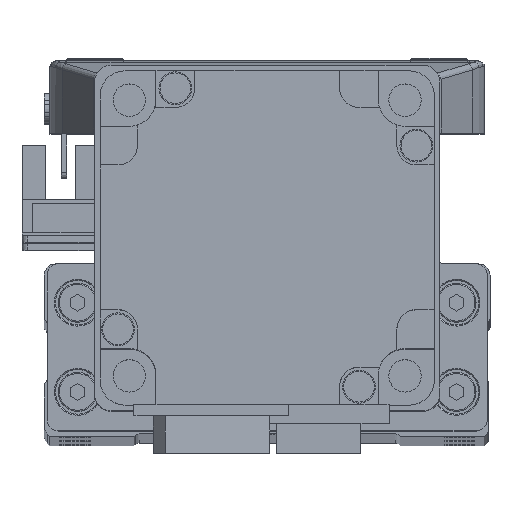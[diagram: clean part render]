
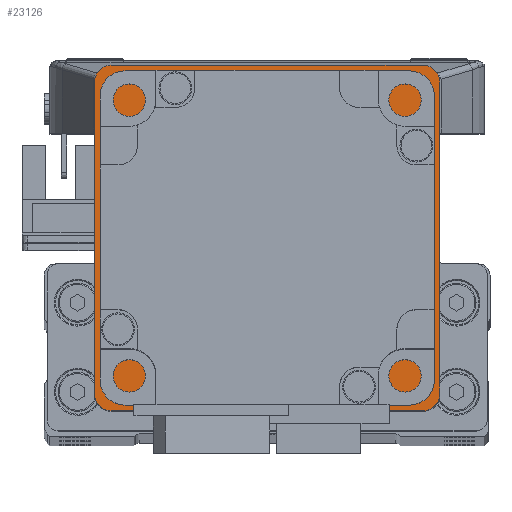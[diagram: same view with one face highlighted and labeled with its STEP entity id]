
A CAD part, top view. The second image highlights one B-rep face of the part: STEP entity #23126.
In plain terms, the highlighted planar face has unit normal (0, 0, 1).
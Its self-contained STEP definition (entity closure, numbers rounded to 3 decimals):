
#3215 = FACE_BOUND ( 'NONE', #24149, .T. ) ;
#3248 = FACE_OUTER_BOUND ( 'NONE', #24140, .T. ) ;
#3935 = DIRECTION ( 'NONE',  ( 0., 0., 1. ) ) ;
#3970 = CARTESIAN_POINT ( 'NONE',  ( 0., 35.5, 79. ) ) ;
#3972 = DIRECTION ( 'NONE',  ( 1., 0., 0. ) ) ;
#3987 = DIRECTION ( 'NONE',  ( 0., 0., 1. ) ) ;
#4001 = PLANE ( 'NONE',  #45743 ) ;
#4035 = CARTESIAN_POINT ( 'NONE',  ( 0., 0., 79. ) ) ;
#4051 = DIRECTION ( 'NONE',  ( 1., 0., 0. ) ) ;
#9077 = CARTESIAN_POINT ( 'NONE',  ( 25., 35.5, 79. ) ) ;
#9079 = CARTESIAN_POINT ( 'NONE',  ( -25., 35.5, 79. ) ) ;
#10713 = CARTESIAN_POINT ( 'NONE',  ( 30.995, 63.495, 79. ) ) ;
#10749 = CARTESIAN_POINT ( 'NONE',  ( 30.995, 7.505, 79. ) ) ;
#10753 = CARTESIAN_POINT ( 'NONE',  ( 27.995, 4.505, 79. ) ) ;
#10754 = CARTESIAN_POINT ( 'NONE',  ( -30.995, 7.505, 79. ) ) ;
#10776 = CARTESIAN_POINT ( 'NONE',  ( 27.995, 66.495, 79. ) ) ;
#10796 = CARTESIAN_POINT ( 'NONE',  ( -27.995, 66.495, 79. ) ) ;
#10808 = CARTESIAN_POINT ( 'NONE',  ( -27.995, 4.505, 79. ) ) ;
#10809 = CARTESIAN_POINT ( 'NONE',  ( -30.995, 63.495, 79. ) ) ;
#13712 = EDGE_CURVE ( 'NONE', #41808, #41811, #30665, .T. ) ;
#13728 = EDGE_CURVE ( 'NONE', #41816, #41814, #30693, .T. ) ;
#13730 = EDGE_CURVE ( 'NONE', #41814, #41808, #30713, .T. ) ;
#13735 = EDGE_CURVE ( 'NONE', #41805, #41791, #30690, .T. ) ;
#13740 = EDGE_CURVE ( 'NONE', #41807, #41805, #30711, .T. ) ;
#13756 = EDGE_CURVE ( 'NONE', #41833, #41816, #30725, .T. ) ;
#13768 = EDGE_CURVE ( 'NONE', #41791, #41833, #30777, .T. ) ;
#13788 = EDGE_CURVE ( 'NONE', #41811, #41807, #30747, .T. ) ;
#13793 = EDGE_CURVE ( 'NONE', #29409, #29414, #30794, .T. ) ;
#14591 = EDGE_CURVE ( 'NONE', #29414, #29409, #48320, .T. ) ;
#23126 = ADVANCED_FACE ( 'NONE', ( #3215, #3248 ), #4001, .T. ) ;
#24140 = EDGE_LOOP ( 'NONE', ( #28981, #28992, #28907, #29016, #28966, #28969, #28984, #29009 ) ) ;
#24149 = EDGE_LOOP ( 'NONE', ( #29017, #29010 ) ) ;
#27824 = AXIS2_PLACEMENT_3D ( 'NONE', #42811, #42820, #42813 ) ;
#27830 = AXIS2_PLACEMENT_3D ( 'NONE', #42889, #42872, #42874 ) ;
#27834 = AXIS2_PLACEMENT_3D ( 'NONE', #42991, #42979, #42993 ) ;
#27840 = AXIS2_PLACEMENT_3D ( 'NONE', #42952, #42938, #42970 ) ;
#27863 = AXIS2_PLACEMENT_3D ( 'NONE', #42832, #42835, #42836 ) ;
#28036 = AXIS2_PLACEMENT_3D ( 'NONE', #3970, #3935, #3972 ) ;
#28907 = ORIENTED_EDGE ( 'NONE', *, *, #13788, .T. ) ;
#28966 = ORIENTED_EDGE ( 'NONE', *, *, #13735, .T. ) ;
#28969 = ORIENTED_EDGE ( 'NONE', *, *, #13768, .T. ) ;
#28981 = ORIENTED_EDGE ( 'NONE', *, *, #13730, .T. ) ;
#28984 = ORIENTED_EDGE ( 'NONE', *, *, #13756, .T. ) ;
#28992 = ORIENTED_EDGE ( 'NONE', *, *, #13712, .T. ) ;
#29009 = ORIENTED_EDGE ( 'NONE', *, *, #13728, .T. ) ;
#29010 = ORIENTED_EDGE ( 'NONE', *, *, #14591, .F. ) ;
#29016 = ORIENTED_EDGE ( 'NONE', *, *, #13740, .T. ) ;
#29017 = ORIENTED_EDGE ( 'NONE', *, *, #13793, .F. ) ;
#29409 = VERTEX_POINT ( 'NONE', #9077 ) ;
#29414 = VERTEX_POINT ( 'NONE', #9079 ) ;
#30665 = CIRCLE ( 'NONE', #27824, 3. ) ;
#30690 = LINE ( 'NONE', #42878, #30738 ) ;
#30693 = CIRCLE ( 'NONE', #27863, 3. ) ;
#30704 = VECTOR ( 'NONE', #42909, 1000. ) ;
#30711 = CIRCLE ( 'NONE', #27830, 3. ) ;
#30713 = LINE ( 'NONE', #42876, #30734 ) ;
#30725 = LINE ( 'NONE', #42910, #30704 ) ;
#30734 = VECTOR ( 'NONE', #42854, 1000. ) ;
#30738 = VECTOR ( 'NONE', #42862, 1000. ) ;
#30747 = LINE ( 'NONE', #42977, #30776 ) ;
#30776 = VECTOR ( 'NONE', #42972, 1000. ) ;
#30777 = CIRCLE ( 'NONE', #27840, 3. ) ;
#30794 = CIRCLE ( 'NONE', #27834, 25. ) ;
#41791 = VERTEX_POINT ( 'NONE', #10713 ) ;
#41805 = VERTEX_POINT ( 'NONE', #10749 ) ;
#41807 = VERTEX_POINT ( 'NONE', #10753 ) ;
#41808 = VERTEX_POINT ( 'NONE', #10754 ) ;
#41811 = VERTEX_POINT ( 'NONE', #10808 ) ;
#41814 = VERTEX_POINT ( 'NONE', #10809 ) ;
#41816 = VERTEX_POINT ( 'NONE', #10796 ) ;
#41833 = VERTEX_POINT ( 'NONE', #10776 ) ;
#42811 = CARTESIAN_POINT ( 'NONE',  ( -27.995, 7.505, 79. ) ) ;
#42813 = DIRECTION ( 'NONE',  ( 1., 0., 0. ) ) ;
#42820 = DIRECTION ( 'NONE',  ( 0., 0., 1. ) ) ;
#42832 = CARTESIAN_POINT ( 'NONE',  ( -27.995, 63.495, 79. ) ) ;
#42835 = DIRECTION ( 'NONE',  ( 0., 0., 1. ) ) ;
#42836 = DIRECTION ( 'NONE',  ( 1., 0., 0. ) ) ;
#42854 = DIRECTION ( 'NONE',  ( 0., -1., 0. ) ) ;
#42862 = DIRECTION ( 'NONE',  ( 0., 1., 0. ) ) ;
#42872 = DIRECTION ( 'NONE',  ( 0., 0., 1. ) ) ;
#42874 = DIRECTION ( 'NONE',  ( 1., 0., 0. ) ) ;
#42876 = CARTESIAN_POINT ( 'NONE',  ( -30.995, 4.505, 79. ) ) ;
#42878 = CARTESIAN_POINT ( 'NONE',  ( 30.995, 4.505, 79. ) ) ;
#42889 = CARTESIAN_POINT ( 'NONE',  ( 27.995, 7.505, 79. ) ) ;
#42909 = DIRECTION ( 'NONE',  ( -1., 0., 0. ) ) ;
#42910 = CARTESIAN_POINT ( 'NONE',  ( 30.995, 66.495, 79. ) ) ;
#42938 = DIRECTION ( 'NONE',  ( 0., 0., 1. ) ) ;
#42952 = CARTESIAN_POINT ( 'NONE',  ( 27.995, 63.495, 79. ) ) ;
#42970 = DIRECTION ( 'NONE',  ( 1., 0., 0. ) ) ;
#42972 = DIRECTION ( 'NONE',  ( 1., 0., 0. ) ) ;
#42977 = CARTESIAN_POINT ( 'NONE',  ( 30.995, 4.505, 79. ) ) ;
#42979 = DIRECTION ( 'NONE',  ( 0., 0., 1. ) ) ;
#42991 = CARTESIAN_POINT ( 'NONE',  ( 0., 35.5, 79. ) ) ;
#42993 = DIRECTION ( 'NONE',  ( 1., 0., 0. ) ) ;
#45743 = AXIS2_PLACEMENT_3D ( 'NONE', #4035, #3987, #4051 ) ;
#48320 = CIRCLE ( 'NONE', #28036, 25. ) ;
